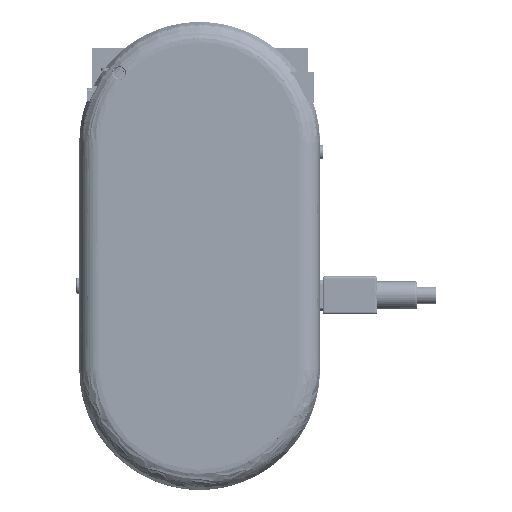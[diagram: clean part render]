
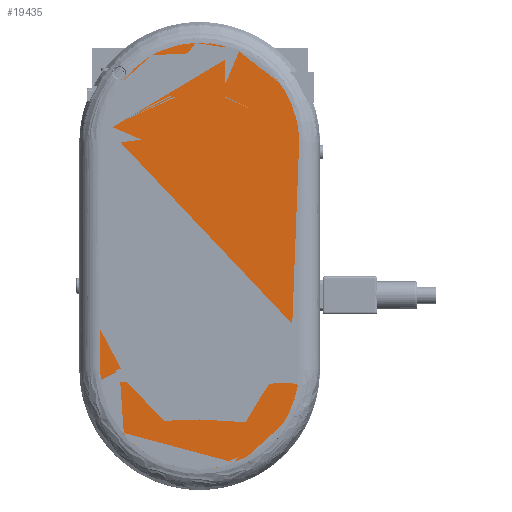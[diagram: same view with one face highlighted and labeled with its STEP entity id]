
A CAD part, top view. The second image highlights one B-rep face of the part: STEP entity #19435.
In plain terms, the highlighted planar face has unit normal (0, 0, 1).
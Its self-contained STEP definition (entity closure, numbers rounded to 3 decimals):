
#19200=CARTESIAN_POINT('',(-24.809,69.,
7.1));
#19201=CARTESIAN_POINT('',(-24.809,69.847,
7.1));
#19202=CARTESIAN_POINT('',(-24.725,71.474,
7.1));
#19203=CARTESIAN_POINT('',(-24.236,74.733,
7.1));
#19204=CARTESIAN_POINT('',(-23.029,78.65,
7.1));
#19205=CARTESIAN_POINT('',(-20.709,82.947,
7.1));
#19206=CARTESIAN_POINT('',(-17.6,86.71,
7.1));
#19207=CARTESIAN_POINT('',(-13.821,89.793,
7.1));
#19208=CARTESIAN_POINT('',(-9.517,92.082,
7.1));
#19209=CARTESIAN_POINT('',(-4.852,93.492,
7.1));
#19210=CARTESIAN_POINT('',(-1.604,93.81,7.1));
#19211=CARTESIAN_POINT('',(1.646,93.808,7.1));
#19212=CARTESIAN_POINT('',(4.901,93.483,7.1));
#19213=CARTESIAN_POINT('',(9.574,92.059,7.1));
#19214=CARTESIAN_POINT('',(13.881,89.754,7.1));
#19215=CARTESIAN_POINT('',(17.656,86.655,7.1));
#19216=CARTESIAN_POINT('',(20.755,82.879,7.1));
#19217=CARTESIAN_POINT('',(23.06,78.573,7.1));
#19218=CARTESIAN_POINT('',(24.246,74.678,7.1));
#19219=CARTESIAN_POINT('',(24.726,71.455,7.1));
#19220=CARTESIAN_POINT('',(24.809,69.844,7.1));
#19221=CARTESIAN_POINT('',(24.809,69.,7.1));
#19223=DIRECTION('',(0.,-1.,0.));
#19224=VECTOR('',#19223,56.7);
#19225=CARTESIAN_POINT('',(24.809,69.,7.1));
#19226=LINE('',#19225,#19224);
#19227=CARTESIAN_POINT('',(24.809,12.3,7.1));
#19228=CARTESIAN_POINT('',(24.809,11.456,7.1));
#19229=CARTESIAN_POINT('',(24.726,9.845,7.1));
#19230=CARTESIAN_POINT('',(24.247,6.622,7.1));
#19231=CARTESIAN_POINT('',(23.06,2.727,7.1));
#19232=CARTESIAN_POINT('',(20.755,-1.579,
7.1));
#19233=CARTESIAN_POINT('',(17.656,-5.355,
7.1));
#19234=CARTESIAN_POINT('',(13.881,-8.454,
7.1));
#19235=CARTESIAN_POINT('',(9.574,-10.759,
7.1));
#19236=CARTESIAN_POINT('',(4.901,-12.183,
7.1));
#19237=CARTESIAN_POINT('',(1.646,-12.508,
7.1));
#19238=CARTESIAN_POINT('',(-1.604,-12.51,
7.1));
#19239=CARTESIAN_POINT('',(-4.852,-12.192,
7.1));
#19240=CARTESIAN_POINT('',(-9.517,-10.782,
7.1));
#19241=CARTESIAN_POINT('',(-13.821,-8.493,
7.1));
#19242=CARTESIAN_POINT('',(-17.6,-5.41,
7.1));
#19243=CARTESIAN_POINT('',(-20.709,-1.647,
7.1));
#19244=CARTESIAN_POINT('',(-23.029,2.65,
7.1));
#19245=CARTESIAN_POINT('',(-24.236,6.567,
7.1));
#19246=CARTESIAN_POINT('',(-24.725,9.826,
7.1));
#19247=CARTESIAN_POINT('',(-24.809,11.453,
7.1));
#19248=CARTESIAN_POINT('',(-24.809,12.3,7.1));
#19250=DIRECTION('',(0.,1.,0.));
#19251=VECTOR('',#19250,56.7);
#19252=CARTESIAN_POINT('',(-24.809,12.3,7.1));
#19253=LINE('',#19252,#19251);
#19400=VERTEX_POINT('',#19200);
#19401=VERTEX_POINT('',#19221);
#19402=CARTESIAN_POINT('',(24.809,12.3,7.1));
#19403=VERTEX_POINT('',#19402);
#19404=VERTEX_POINT('',#19248);
#19420=CARTESIAN_POINT('',(-1.904,40.65,7.1));
#19421=DIRECTION('',(0.,0.,1.));
#19422=DIRECTION('',(1.,0.,0.));
#19423=AXIS2_PLACEMENT_3D('',#19420,#19421,#19422);
#19424=PLANE('',#19423);
#19426=ORIENTED_EDGE('',*,*,#19425,.T.);
#19428=ORIENTED_EDGE('',*,*,#19427,.T.);
#19430=ORIENTED_EDGE('',*,*,#19429,.T.);
#19432=ORIENTED_EDGE('',*,*,#19431,.T.);
#19433=EDGE_LOOP('',(#19426,#19428,#19430,#19432));
#19434=FACE_OUTER_BOUND('',#19433,.F.);
#19435=ADVANCED_FACE('',(#19434),#19424,.T.);
#19222=B_SPLINE_CURVE_WITH_KNOTS('',3,(#19200,#19201,#19202,#19203,#19204,
#19205,#19206,#19207,#19208,#19209,#19210,#19211,#19212,#19213,#19214,#19215,
#19216,#19217,#19218,#19219,#19220,#19221),.UNSPECIFIED.,.F.,.F.,(4,1,1,1,1,1,1,
1,1,1,1,1,1,1,1,1,1,1,1,4),(0.,0.031,0.063,0.125,0.188,
0.25,0.313,0.375,0.437,0.5,0.5,0.563,
0.625,0.688,0.75,0.813,0.875,0.938,0.969,
1.),.UNSPECIFIED.);
#19249=B_SPLINE_CURVE_WITH_KNOTS('',3,(#19227,#19228,#19229,#19230,#19231,
#19232,#19233,#19234,#19235,#19236,#19237,#19238,#19239,#19240,#19241,#19242,
#19243,#19244,#19245,#19246,#19247,#19248),.UNSPECIFIED.,.F.,.F.,(4,1,1,1,1,1,1,
1,1,1,1,1,1,1,1,1,1,1,1,4),(0.,0.031,0.062,0.125,0.187,
0.25,0.312,0.375,0.437,0.5,0.5,0.563,
0.625,0.687,0.75,0.812,0.875,0.937,0.969,
1.),.UNSPECIFIED.);
#19425=EDGE_CURVE('',#19400,#19401,#19222,.T.);
#19427=EDGE_CURVE('',#19401,#19403,#19226,.T.);
#19429=EDGE_CURVE('',#19403,#19404,#19249,.T.);
#19431=EDGE_CURVE('',#19404,#19400,#19253,.T.);
